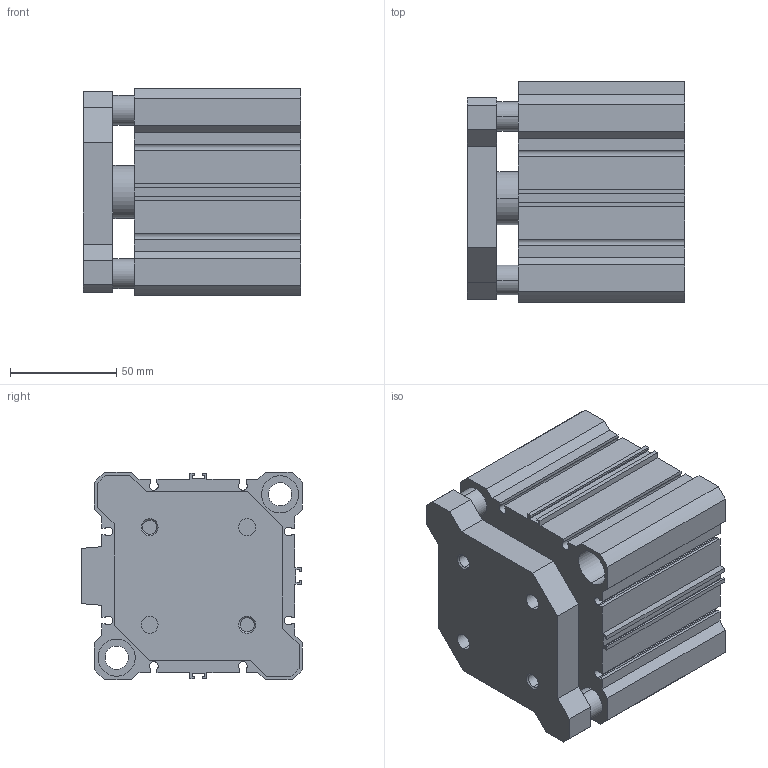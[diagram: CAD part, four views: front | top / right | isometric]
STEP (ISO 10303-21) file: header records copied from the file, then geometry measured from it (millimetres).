
FILE_DESCRIPTION (( 'STEP AP203' ), '1' );
FILE_NAME ('CCMG80-25.STEP', '2020-04-01T18:51:29', ( '' ), ( '' ), 'SwSTEP 2.0', 'SolidWorks 2019', '' );
FILE_SCHEMA (( 'CONFIG_CONTROL_DESIGN' ));
Length unit declared in the file: millimetre
Products named in the file (1): CCMG80-25
Bounding box: 102.5 x 104 x 98 mm (x, y, z)
Volume: 654144.9 mm3; surface area: 129942.2 mm2
Topology: 2 solids, 2 shells, 194 faces, 518 edges, 338 vertices
Faces by surface type: plane 114, cylinder 64, cone 16
Entity records: 6105 total; most frequent: CARTESIAN_POINT 1047, DIRECTION 1044, ORIENTED_EDGE 1028, EDGE_CURVE 514, VECTOR 374, LINE 374, VERTEX_POINT 338, AXIS2_PLACEMENT_3D 335
